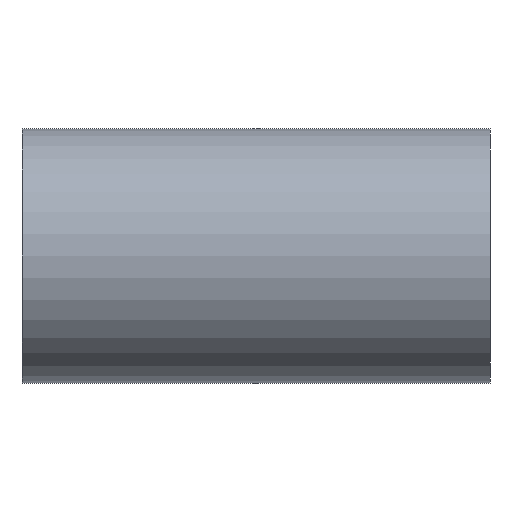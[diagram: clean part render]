
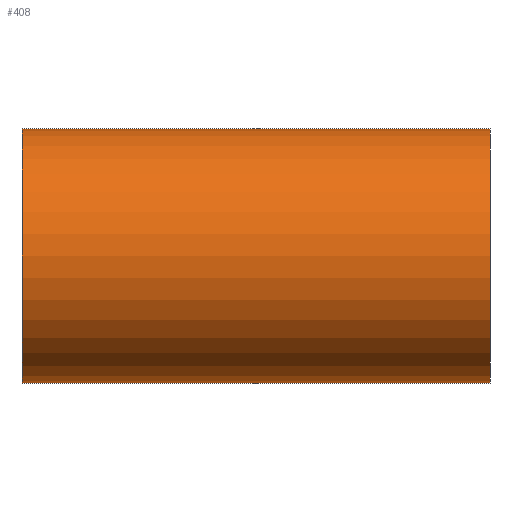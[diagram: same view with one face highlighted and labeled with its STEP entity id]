
A CAD part, front view. The second image highlights one B-rep face of the part: STEP entity #408.
In plain terms, the highlighted cylindrical face has radius 31 mm (diameter 62 mm), a full revolution.
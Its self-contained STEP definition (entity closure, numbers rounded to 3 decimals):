
#16=FACE_BOUND('',#102,.T.);
#17=FACE_BOUND('',#103,.T.);
#26=ELLIPSE('',#433,43.841,31.);
#27=ELLIPSE('',#434,43.841,31.);
#29=CYLINDRICAL_SURFACE('',#431,31.);
#75=FACE_OUTER_BOUND('',#101,.T.);
#101=EDGE_LOOP('',(#343));
#102=EDGE_LOOP('',(#344,#345));
#103=EDGE_LOOP('',(#346));
#124=CIRCLE('',#432,31.);
#125=CIRCLE('',#435,31.);
#195=VERTEX_POINT('',#16418);
#196=VERTEX_POINT('',#16420);
#197=VERTEX_POINT('',#16421);
#198=VERTEX_POINT('',#16424);
#253=EDGE_CURVE('',#195,#195,#124,.T.);
#254=EDGE_CURVE('',#196,#197,#26,.T.);
#255=EDGE_CURVE('',#197,#196,#27,.T.);
#256=EDGE_CURVE('',#198,#198,#125,.T.);
#343=ORIENTED_EDGE('',*,*,#253,.F.);
#344=ORIENTED_EDGE('',*,*,#254,.T.);
#345=ORIENTED_EDGE('',*,*,#255,.T.);
#346=ORIENTED_EDGE('',*,*,#256,.F.);
#408=ADVANCED_FACE('',(#75,#16,#17),#29,.T.);
#431=AXIS2_PLACEMENT_3D('',#16417,#483,#484);
#432=AXIS2_PLACEMENT_3D('',#16419,#485,#486);
#433=AXIS2_PLACEMENT_3D('',#16422,#487,#488);
#434=AXIS2_PLACEMENT_3D('',#16423,#489,#490);
#435=AXIS2_PLACEMENT_3D('',#16425,#491,#492);
#483=DIRECTION('center_axis',(1.,0.,0.));
#484=DIRECTION('ref_axis',(0.,-1.,0.));
#485=DIRECTION('center_axis',(-1.,0.,0.));
#486=DIRECTION('ref_axis',(0.,-1.,0.));
#487=DIRECTION('center_axis',(-0.707,-0.707,0.));
#488=DIRECTION('ref_axis',(0.707,-0.707,0.));
#489=DIRECTION('center_axis',(0.707,-0.707,0.));
#490=DIRECTION('ref_axis',(0.707,0.707,0.));
#491=DIRECTION('center_axis',(1.,0.,0.));
#492=DIRECTION('ref_axis',(0.,-1.,0.));
#16417=CARTESIAN_POINT('Origin',(0.,0.,0.));
#16418=CARTESIAN_POINT('',(-57.,31.,0.));
#16419=CARTESIAN_POINT('Origin',(-57.,0.,0.));
#16420=CARTESIAN_POINT('',(0.,0.,31.));
#16421=CARTESIAN_POINT('',(0.,0.,-31.));
#16422=CARTESIAN_POINT('Origin',(0.,0.,0.));
#16423=CARTESIAN_POINT('Origin',(0.,0.,0.));
#16424=CARTESIAN_POINT('',(57.,31.,0.));
#16425=CARTESIAN_POINT('Origin',(57.,0.,0.));
